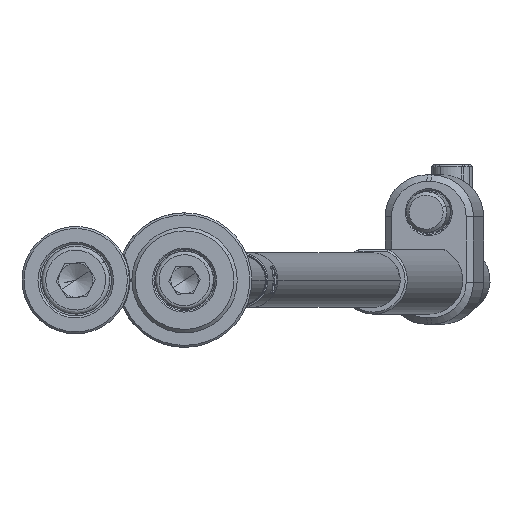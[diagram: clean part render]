
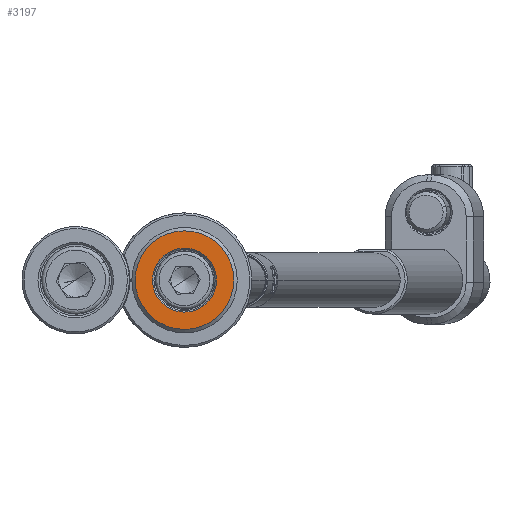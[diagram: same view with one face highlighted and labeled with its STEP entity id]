
A CAD part, front view. The second image highlights one B-rep face of the part: STEP entity #3197.
In plain terms, the highlighted planar face has unit normal (0, -1, 0).
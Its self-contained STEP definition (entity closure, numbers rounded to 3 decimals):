
#8 = CARTESIAN_POINT ( 'NONE',  ( 0., -4., 0. ) ) ;
#37 = VERTEX_POINT ( 'NONE', #934 ) ;
#56 = ORIENTED_EDGE ( 'NONE', *, *, #12816, .T. ) ;
#439 = CARTESIAN_POINT ( 'NONE',  ( 0., -4., 0. ) ) ;
#934 = CARTESIAN_POINT ( 'NONE',  ( -6.268, -4., -3.643 ) ) ;
#981 = PLANE ( 'NONE',  #2854 ) ;
#2854 = AXIS2_PLACEMENT_3D ( 'NONE', #4216, #8725, #9812 ) ;
#2983 = VERTEX_POINT ( 'NONE', #9970 ) ;
#3000 = CARTESIAN_POINT ( 'NONE',  ( 6.268, -4., 3.643 ) ) ;
#3197 = ADVANCED_FACE ( 'NONE', ( #9604, #10963 ), #981, .F. ) ;
#3569 = CIRCLE ( 'NONE', #10208, 4.7 ) ;
#3574 = ORIENTED_EDGE ( 'NONE', *, *, #11564, .T. ) ;
#3716 = ORIENTED_EDGE ( 'NONE', *, *, #10921, .T. ) ;
#3778 = AXIS2_PLACEMENT_3D ( 'NONE', #439, #13717, #4755 ) ;
#4216 = CARTESIAN_POINT ( 'NONE',  ( 2.261, -4., -3.891 ) ) ;
#4331 = DIRECTION ( 'NONE',  ( 0., -1., 0. ) ) ;
#4755 = DIRECTION ( 'NONE',  ( -0.865, 0., -0.503 ) ) ;
#5023 = CIRCLE ( 'NONE', #13046, 7.25 ) ;
#5195 = VERTEX_POINT ( 'NONE', #7874 ) ;
#5621 = VERTEX_POINT ( 'NONE', #3000 ) ;
#5798 = CARTESIAN_POINT ( 'NONE',  ( 0., -4., 0. ) ) ;
#6064 = CARTESIAN_POINT ( 'NONE',  ( 0., -4., 0. ) ) ;
#7407 = DIRECTION ( 'NONE',  ( -0.865, 0., -0.503 ) ) ;
#7495 = EDGE_LOOP ( 'NONE', ( #3716, #3574 ) ) ;
#7874 = CARTESIAN_POINT ( 'NONE',  ( 4.063, -4., 2.362 ) ) ;
#8025 = DIRECTION ( 'NONE',  ( 0., 1., 0. ) ) ;
#8351 = DIRECTION ( 'NONE',  ( -0.865, 0., -0.503 ) ) ;
#8725 = DIRECTION ( 'NONE',  ( 0., 1., 0. ) ) ;
#9273 = CIRCLE ( 'NONE', #3778, 4.7 ) ;
#9604 = FACE_BOUND ( 'NONE', #7495, .T. ) ;
#9812 = DIRECTION ( 'NONE',  ( -0.865, 0., -0.503 ) ) ;
#9970 = CARTESIAN_POINT ( 'NONE',  ( -4.063, -4., -2.362 ) ) ;
#10141 = ORIENTED_EDGE ( 'NONE', *, *, #14066, .T. ) ;
#10208 = AXIS2_PLACEMENT_3D ( 'NONE', #5798, #8025, #11332 ) ;
#10444 = DIRECTION ( 'NONE',  ( 0., -1., 0. ) ) ;
#10921 = EDGE_CURVE ( 'NONE', #5195, #2983, #3569, .T. ) ;
#10963 = FACE_OUTER_BOUND ( 'NONE', #12900, .T. ) ;
#11332 = DIRECTION ( 'NONE',  ( -0.865, 0., -0.503 ) ) ;
#11564 = EDGE_CURVE ( 'NONE', #2983, #5195, #9273, .T. ) ;
#12529 = AXIS2_PLACEMENT_3D ( 'NONE', #6064, #10444, #8351 ) ;
#12816 = EDGE_CURVE ( 'NONE', #37, #5621, #14148, .T. ) ;
#12900 = EDGE_LOOP ( 'NONE', ( #56, #10141 ) ) ;
#13046 = AXIS2_PLACEMENT_3D ( 'NONE', #8, #4331, #7407 ) ;
#13717 = DIRECTION ( 'NONE',  ( 0., 1., 0. ) ) ;
#14066 = EDGE_CURVE ( 'NONE', #5621, #37, #5023, .T. ) ;
#14148 = CIRCLE ( 'NONE', #12529, 7.25 ) ;
